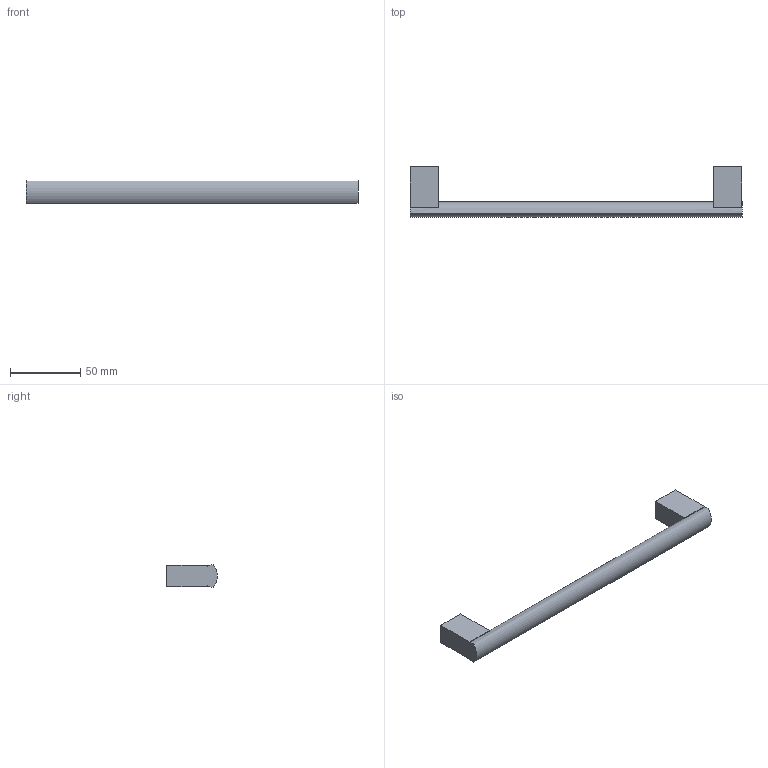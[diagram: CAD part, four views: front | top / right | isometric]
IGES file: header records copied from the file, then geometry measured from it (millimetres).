
Start section: Data from Parasolid IGES Translator 20.0.26, Copyright(c) 2006 Siemens P LM Software. All Rights Reserved.
Global section: file name: 115206.igs; native system: By Siemens PLM Incorporated; preprocessor: XPlus GENERIC/IGES 20.0.26; author: Noname; organization: Noname; date: 20230220.160918; units: millimetre
Bounding box: 236 x 35.96 x 16 mm (x, y, z)
Surface area: 14398.1 mm2 (no closed solid volume)
Topology: 0 solids, 0 shells, 22 faces, 102 edges, 100 vertices
Faces by surface type: extrusion 17, revolution 5
